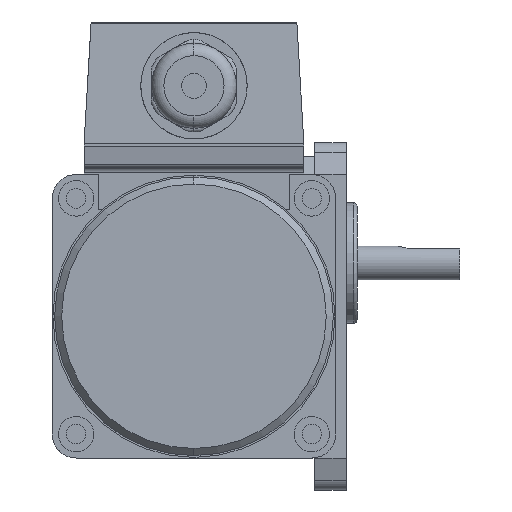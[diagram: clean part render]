
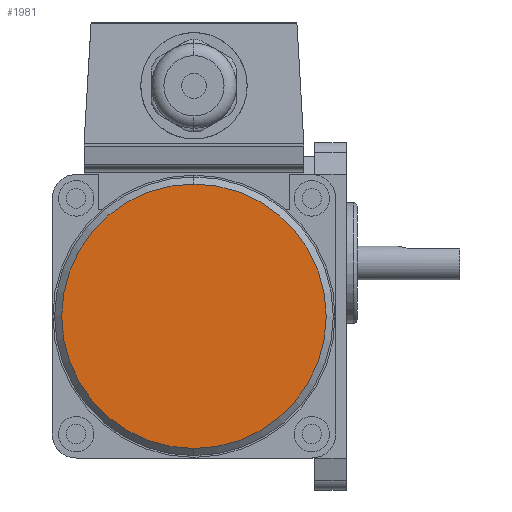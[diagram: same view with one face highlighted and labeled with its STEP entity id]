
A CAD part, left-side view. The second image highlights one B-rep face of the part: STEP entity #1981.
In plain terms, the highlighted planar face has unit normal (-1, 0, 0).
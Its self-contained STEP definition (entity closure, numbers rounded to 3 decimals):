
#1961=CARTESIAN_POINT('POINT516922',(-146.,43.,22.3));
#1962=VERTEX_POINT('VERTEX516922',#1961);
#1963=CARTESIAN_POINT('POINT516923',(-146.,43.,-52.3));
#1964=VERTEX_POINT('VERTEX516923',#1963);
#1965=CARTESIAN_POINT('POS846708',(-146.,43.,-15.));
#1966=DIRECTION('DIR1242610',(1.,0.,0.));
#1967=DIRECTION('DIR1242611',(0.,0.,1.));
#1968=AXIS2_PLACEMENT_3D('AXIS395903',#1965,#1966,#1967);
#1969=CIRCLE('ELLIPSE167533',#1968,37.3);
#1970=EDGE_CURVE('EDGE799794',#1962,#1964,#1969,.T.);
#1971=ORIENTED_EDGE('COEDGE1600143',*,*,#1970,.F.);
#1972=EDGE_CURVE('EDGE799795',#1964,#1962,#1969,.T.);
#1973=ORIENTED_EDGE('COEDGE1600144',*,*,#1972,.F.);
#1974=EDGE_LOOP('NONE',(#1971,#1973));
#1975=FACE_BOUND('LOOP1',#1974,.T.);
#1976=CARTESIAN_POINT('POS846709',(-146.,43.,
   3.65));
#1977=DIRECTION('DIR1242612',(-1.,0.,0.));
#1978=DIRECTION('DIR1242613',(0.,1.,0.));
#1979=AXIS2_PLACEMENT_3D('AXIS395904',#1976,#1977,#1978);
#1980=PLANE('PLANE153956',#1979);
#1981=ADVANCED_FACE('FACE316855',(#1975),#1980,.T.);
